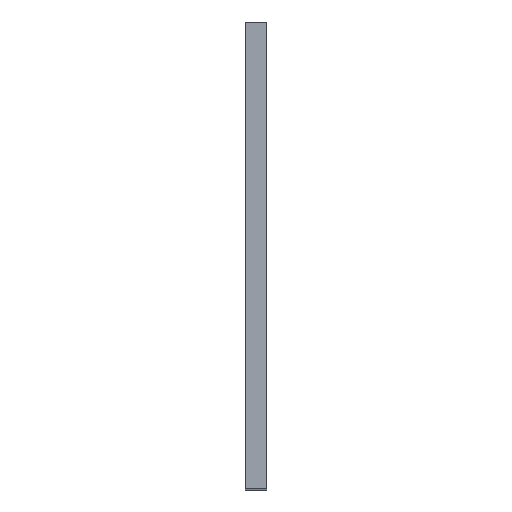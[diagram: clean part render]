
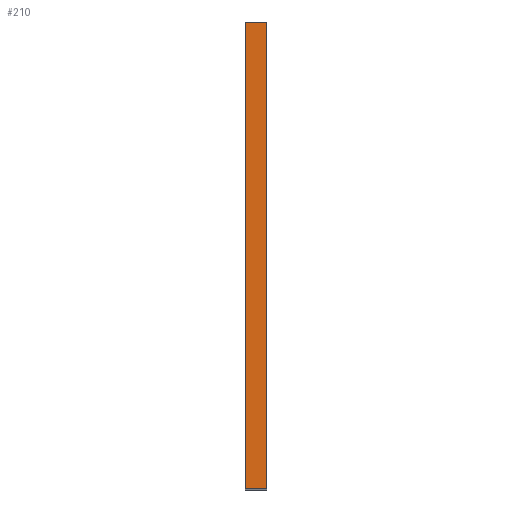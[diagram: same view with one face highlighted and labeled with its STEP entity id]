
A CAD part, top view. The second image highlights one B-rep face of the part: STEP entity #210.
In plain terms, the highlighted planar face has unit normal (0, 0, 1).
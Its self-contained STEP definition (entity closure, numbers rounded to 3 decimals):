
#158=CARTESIAN_POINT('Vertex',(-10.,220.,450.)) ;
#161=CARTESIAN_POINT('Line Origine',(-5.,220.,450.)) ;
#165=CARTESIAN_POINT('Vertex',(0.,220.,450.)) ;
#180=CARTESIAN_POINT('Axis2P3D Location',(0.,220.,450.)) ;
#185=CARTESIAN_POINT('Line Origine',(-10.,110.,450.)) ;
#189=CARTESIAN_POINT('Vertex',(-10.,0.,450.)) ;
#192=CARTESIAN_POINT('Line Origine',(-5.,0.,450.)) ;
#196=CARTESIAN_POINT('Vertex',(0.,0.,450.)) ;
#199=CARTESIAN_POINT('Line Origine',(0.,110.,450.)) ;
#162=DIRECTION('Vector Direction',(-1.,0.,0.)) ;
#181=DIRECTION('Axis2P3D Direction',(-0.,-0.,-1.)) ;
#182=DIRECTION('Axis2P3D XDirection',(0.,-1.,0.)) ;
#186=DIRECTION('Vector Direction',(0.,-1.,0.)) ;
#193=DIRECTION('Vector Direction',(-1.,0.,0.)) ;
#200=DIRECTION('Vector Direction',(0.,-1.,0.)) ;
#183=AXIS2_PLACEMENT_3D('Plane Axis2P3D',#180,#181,#182) ;
#205=ORIENTED_EDGE('',*,*,#191,.T.) ;
#206=ORIENTED_EDGE('',*,*,#198,.F.) ;
#207=ORIENTED_EDGE('',*,*,#203,.F.) ;
#208=ORIENTED_EDGE('',*,*,#167,.T.) ;
#163=VECTOR('Line Direction',#162,1.) ;
#187=VECTOR('Line Direction',#186,1.) ;
#194=VECTOR('Line Direction',#193,1.) ;
#201=VECTOR('Line Direction',#200,1.) ;
#210=ADVANCED_FACE('Corps principal',(#209),#184,.F.) ;
#167=EDGE_CURVE('',#166,#159,#164,.T.) ;
#191=EDGE_CURVE('',#159,#190,#188,.T.) ;
#198=EDGE_CURVE('',#197,#190,#195,.T.) ;
#203=EDGE_CURVE('',#166,#197,#202,.T.) ;
#204=EDGE_LOOP('',(#205,#206,#207,#208)) ;
#209=FACE_OUTER_BOUND('',#204,.T.) ;
#164=LINE('Line',#161,#163) ;
#188=LINE('Line',#185,#187) ;
#195=LINE('Line',#192,#194) ;
#202=LINE('Line',#199,#201) ;
#184=PLANE('Plane',#183) ;
#159=VERTEX_POINT('',#158) ;
#166=VERTEX_POINT('',#165) ;
#190=VERTEX_POINT('',#189) ;
#197=VERTEX_POINT('',#196) ;
